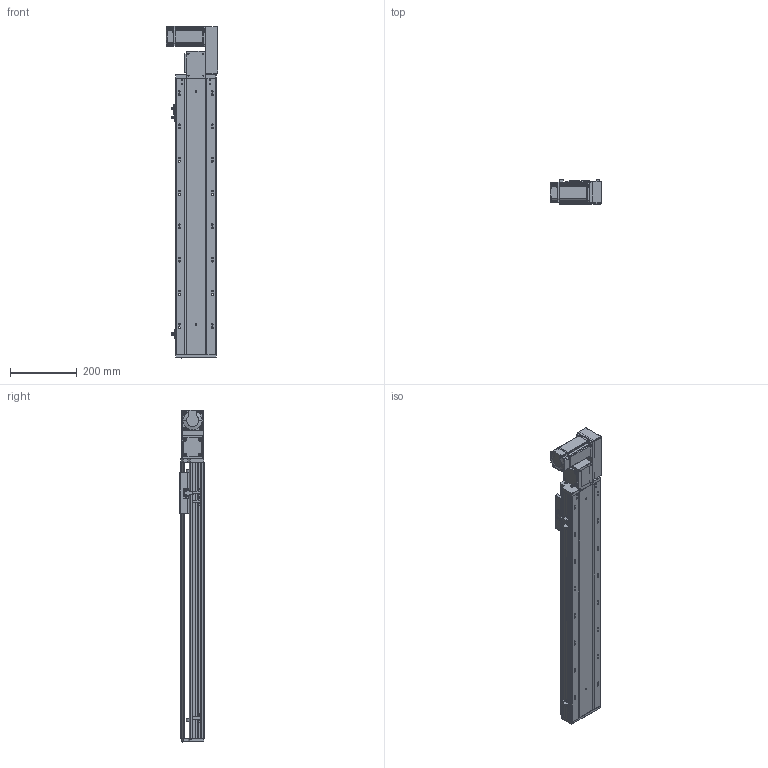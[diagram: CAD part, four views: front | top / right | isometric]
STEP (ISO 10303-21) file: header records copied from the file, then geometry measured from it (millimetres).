
FILE_DESCRIPTION (( 'STEP AP203' ), '1' );
FILE_NAME ('RY120-T-300-RK.SLDASM_600.step', '2021-03-01T03:52:55', ( '盈信电脑' ), ( '东莞市道滘镇水果街19号' ), 'SwSTEP 2.0', 'SolidWorks 2012', '' );
FILE_SCHEMA (( 'CONFIG_CONTROL_DESIGN' ));
Length unit declared in the file: millimetre
Products named in the file (17): RY120-T-300-RK.SLDASM_600; RY120-T主同步轮轴承压盖; RY120-T萇儂欶; RY120-T蹟翐M4; RY120-T萇儂假蚾啣; 15; RY120-T翋肮祭謫裔啣; 滅袉蝶18-10; RY120-T翋肮祭盓傅釱; RY120-T肮祭湍揤踡輸2; 覜茼ん672; RY120綴裔啣; RY120外置感应片(140共用）; RY120-T肮祭湍揤踡輸1; RY120-T-300-RK倰第奻裔啣_600; RY120-T-300-RK倰第菁釱_600; RY120肮祭湍臏賑輸
Assembly tree (22 placements, depth 2):
  RY120-T-300-RK.SLDASM_600
    RY120-T-300-RK倰第菁釱_600
    RY120-T-300-RK倰第奻裔啣_600
    RY120肮祭湍臏賑輸
    RY120綴裔啣
    覜茼ん672  x3
    RY120外置感应片(140共用）
    RY120-T肮祭湍揤踡輸1
    RY120-T肮祭湍揤踡輸2
    RY120-T翋肮祭盓傅釱
    滅袉蝶18-10  x2
    RY120-T翋肮祭謫裔啣
    15
    RY120-T萇儂假蚾啣
    RY120-T蹟翐M4  x4
    RY120-T萇儂欶
    RY120-T主同步轮轴承压盖
Bounding box: 155.5 x 73 x 997.5 mm (x, y, z)
Volume: 2737352.8 mm3; surface area: 1004559.7 mm2
Topology: 23 solids, 23 shells, 2806 faces, 7672 edges, 4938 vertices
Faces by surface type: plane 1422, cylinder 1068, cone 227, bspline 89
Entity records: 89907 total; most frequent: CARTESIAN_POINT 23180, ORIENTED_EDGE 13816, DIRECTION 12974, EDGE_CURVE 6908, VERTEX_POINT 4525, AXIS2_PLACEMENT_3D 4335, VECTOR 4304, LINE 4304
